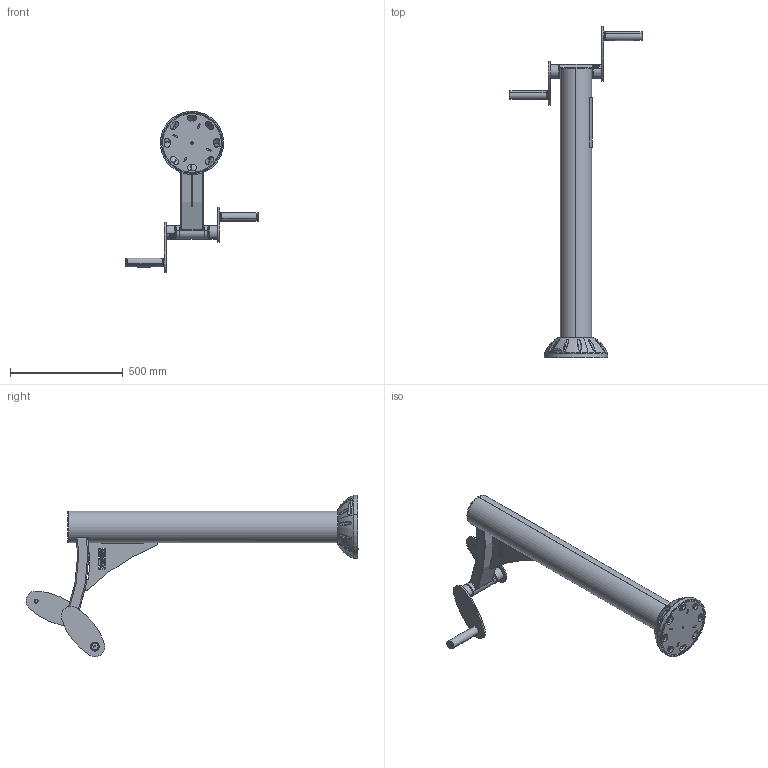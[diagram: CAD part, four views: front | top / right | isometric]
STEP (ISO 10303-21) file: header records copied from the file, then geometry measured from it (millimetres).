
FILE_DESCRIPTION (( 'STEP AP203' ), '1' );
FILE_NAME ('S0213 - TOURNIQUET SIMPLE V1.2.STEP', '2020-03-27T14:00:49', ( '' ), ( '' ), 'SwSTEP 2.0', 'SolidWorks 2019', '' );
FILE_SCHEMA (( 'CONFIG_CONTROL_DESIGN' ));
Length unit declared in the file: millimetre
Products named in the file (34): PU-TOLPLAT - Platine base V1.0; SA1440 - Goupille avec plat D.15 V1.0; SB0112 - Vis Torx teton central M8x20_M8x20; SR0423 - Entretoise Nylon 20x28x7,5mm V1.0; PU-TROCB1270TOS - Colonne base haute D.139,7x3 Ht1270 Tourniquet simple V1.0; SR0410 - Rondelle Grower M10 A2; S0213 - TOURNIQUET SIMPLE V1.2; SC0304 - CACHE PLATINE ASS V4.0; SA1414.A - Axe poignée Inox D.20mm L173,5 V2.1; SBA1602.A - Bague 6205 L144 V1.0; SR0416 - Rondelle plate petite M10 A2 ext 22mm; SPLC0900 - Plaque de consigne en Dibond 90x220x2mm; SBA1604.A - Bague support poignée V1.3; PU-TOLGOPL - Gousset platine V2.0; PU-TDRFIT225 - Tole renfort tube rectangulaire cintré R750 V1.0; SC0304 - Demi cache platine D140 V4.0; TRECT-R750 - Tube rectangulaire cintré R750 100x50x3 L400 V1.0; SR0433 - Rondelle plastique bouchon bague D60 d.25; TOLMAN-PMR0703 - Manivelle poignée Tourniquet V2.0_V‚lo elliptique; SRR0804 - Roulement 6205 52-25-15; MANIV-S0213 - MANIVELLE TOURNIQUET V2.1; SP0605 - Poignee plastique D.33,7 L=170; PLATINE BASE ASS V2.0_RAL7012; BATI-S0213 - BATI TOURNIQUET SIMPLE V1.1; SB0131 - Joint torique 23 X 5 _d.28 f.7; SB0132 - Joint torique 27 X 5 _d.28 f.7; SCH1806.A - Chapeau D135 V1.2; Ass Joint torique Tourniquet - V幨o V1.0; SPC0818 - Palier à collerette 15x19x23-16 V1.0; SBA1603.A - Bague manivelle support goupille V2.0; SR0421 - Rondelle plate M8 diamètre Ext. 30 mm A2; SA1411.B - Axe articulation Inox 303 D25 L216 V3.1; SB0104 - Vis Torx teton central M10x20
Assembly tree (59 placements, depth 4):
  S0213 - TOURNIQUET SIMPLE V1.2
    BATI-S0213 - BATI TOURNIQUET SIMPLE V1.1
      PU-TROCB1270TOS - Colonne base haute D.139,7x3 Ht1270 Tourniquet simple V1.0
      TRECT-R750 - Tube rectangulaire cintré R750 100x50x3 L400 V1.0
      PU-TDRFIT225 - Tole renfort tube rectangulaire cintré R750 V1.0
      SCH1806.A - Chapeau D135 V1.2
      PLATINE BASE ASS V2.0_RAL7012
        PU-TOLPLAT - Platine base V1.0
        PU-TOLGOPL - Gousset platine V2.0  x4
      SBA1602.A - Bague 6205 L144 V1.0
    SC0304 - CACHE PLATINE ASS V4.0
      SC0304 - Demi cache platine D140 V4.0
      SB0112 - Vis Torx teton central M8x20_M8x20  x2
    SRR0804 - Roulement 6205 52-25-15
    SA1411.B - Axe articulation Inox 303 D25 L216 V3.1
    MANIV-S0213 - MANIVELLE TOURNIQUET V2.1
      TOLMAN-PMR0703 - Manivelle poignée Tourniquet V2.0_V‚lo elliptique
      SBA1603.A - Bague manivelle support goupille V2.0
      SA1440 - Goupille avec plat D.15 V1.0
      SA1414.A - Axe poignée Inox D.20mm L173,5 V2.1
      SR0423 - Entretoise Nylon 20x28x7,5mm V1.0
      SBA1604.A - Bague support poignée V1.3
      SPC0818 - Palier à collerette 15x19x23-16 V1.0  x2
      SR0421 - Rondelle plate M8 diamètre Ext. 30 mm A2
      SB0112 - Vis Torx teton central M8x20_M8x20
      SP0605 - Poignee plastique D.33,7 L=170
      SR0416 - Rondelle plate petite M10 A2 ext 22mm
      SB0104 - Vis Torx teton central M10x20
      SR0410 - Rondelle Grower M10 A2
    MANIV-S0213 - MANIVELLE TOURNIQUET V2.1
      TOLMAN-PMR0703 - Manivelle poignée Tourniquet V2.0_V‚lo elliptique
      SBA1603.A - Bague manivelle support goupille V2.0
      SA1440 - Goupille avec plat D.15 V1.0
      SA1414.A - Axe poignée Inox D.20mm L173,5 V2.1
      SR0423 - Entretoise Nylon 20x28x7,5mm V1.0
      SBA1604.A - Bague support poignée V1.3
      SPC0818 - Palier à collerette 15x19x23-16 V1.0  x2
      SR0421 - Rondelle plate M8 diamètre Ext. 30 mm A2
      SB0112 - Vis Torx teton central M8x20_M8x20
      SP0605 - Poignee plastique D.33,7 L=170
      SR0416 - Rondelle plate petite M10 A2 ext 22mm
      SB0104 - Vis Torx teton central M10x20
      SR0410 - Rondelle Grower M10 A2
    SPLC0900 - Plaque de consigne en Dibond 90x220x2mm
    SR0433 - Rondelle plastique bouchon bague D60 d.25  x2
    Ass Joint torique Tourniquet - V幨o V1.0
      SB0132 - Joint torique 27 X 5 _d.28 f.7  x3
      SB0131 - Joint torique 23 X 5 _d.28 f.7  x4
Bounding box: 594.2 x 1474.11 x 716.41 mm (x, y, z)
Volume: 4750172.8 mm3; surface area: 2204268.1 mm2
Topology: 58 solids, 58 shells, 1419 faces, 3435 edges, 2180 vertices
Faces by surface type: cylinder 468, bspline 342, plane 335, cone 160, torus 102, sphere 12
Entity records: 123135 total; most frequent: CARTESIAN_POINT 96120, ORIENTED_EDGE 5080, DIRECTION 4204, EDGE_CURVE 2540, AXIS2_PLACEMENT_3D 1703, VERTEX_POINT 1620, EDGE_LOOP 1188, FACE_OUTER_BOUND 1033
